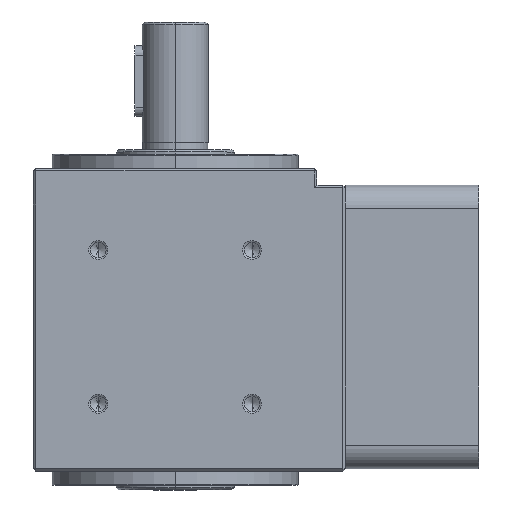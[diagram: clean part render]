
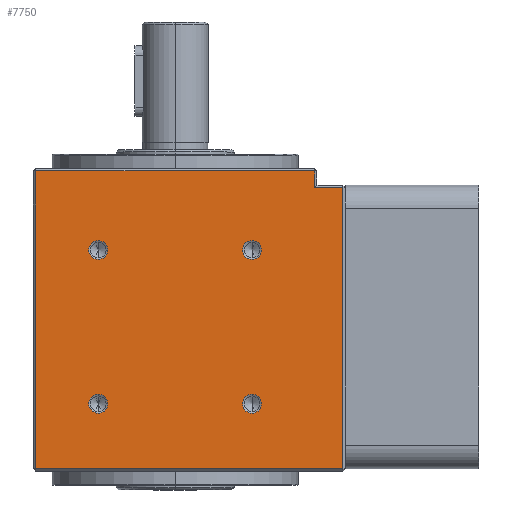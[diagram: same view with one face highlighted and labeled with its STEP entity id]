
A CAD part, left-side view. The second image highlights one B-rep face of the part: STEP entity #7750.
In plain terms, the highlighted planar face has unit normal (-1, 0, 0) as drawn and (1, 0, 0) by its records, which use the part's own axes.
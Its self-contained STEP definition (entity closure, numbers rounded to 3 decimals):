
#26 = EDGE_CURVE ( 'NONE', #30095, #21761, #1625, .T. ) ;
#136 = EDGE_CURVE ( 'NONE', #24231, #29380, #16867, .T. ) ;
#352 = DIRECTION ( 'NONE',  ( 1., 0., 0. ) ) ;
#410 = FACE_BOUND ( 'NONE', #24757, .T. ) ;
#801 = VECTOR ( 'NONE', #37540, 1000. ) ;
#933 = DIRECTION ( 'NONE',  ( 1., 0., 0. ) ) ;
#1108 = DIRECTION ( 'NONE',  ( 0., 0., -1. ) ) ;
#1289 = VERTEX_POINT ( 'NONE', #34229 ) ;
#1625 = CIRCLE ( 'NONE', #22050, 2. ) ;
#1793 = CARTESIAN_POINT ( 'NONE',  ( 30., 16.263, 54.763 ) ) ;
#1857 = ORIENTED_EDGE ( 'NONE', *, *, #33113, .T. ) ;
#1863 = DIRECTION ( 'NONE',  ( 0., 0., -1. ) ) ;
#1991 = PLANE ( 'NONE',  #5842 ) ;
#2540 = DIRECTION ( 'NONE',  ( 0., 0., 1. ) ) ;
#2823 = ORIENTED_EDGE ( 'NONE', *, *, #136, .F. ) ;
#3057 = DIRECTION ( 'NONE',  ( -1., 0., 0. ) ) ;
#3107 = CIRCLE ( 'NONE', #13278, 2. ) ;
#3129 = DIRECTION ( 'NONE',  ( 0., 0., -1. ) ) ;
#3798 = EDGE_CURVE ( 'NONE', #30996, #6735, #20510, .T. ) ;
#3925 = CARTESIAN_POINT ( 'NONE',  ( 30., -29.5, 3.5 ) ) ;
#5485 = CARTESIAN_POINT ( 'NONE',  ( 30., -35.5, 66.5 ) ) ;
#5573 = ORIENTED_EDGE ( 'NONE', *, *, #20245, .T. ) ;
#5585 = DIRECTION ( 'NONE',  ( 0., -1., 0. ) ) ;
#5842 = AXIS2_PLACEMENT_3D ( 'NONE', #24079, #3057, #5585 ) ;
#5851 = CARTESIAN_POINT ( 'NONE',  ( 30., 29.5, 66.5 ) ) ;
#6735 = VERTEX_POINT ( 'NONE', #5485 ) ;
#6973 = CARTESIAN_POINT ( 'NONE',  ( 30., -29.5, 70. ) ) ;
#7031 = DIRECTION ( 'NONE',  ( 0., 0., -1. ) ) ;
#7287 = CARTESIAN_POINT ( 'NONE',  ( 30., -35.5, 70. ) ) ;
#7750 = ADVANCED_FACE ( 'NONE', ( #15631, #410, #8972, #17986, #10864 ), #1991, .F. ) ;
#7878 = CIRCLE ( 'NONE', #15344, 2. ) ;
#8665 = ORIENTED_EDGE ( 'NONE', *, *, #3798, .T. ) ;
#8972 = FACE_BOUND ( 'NONE', #27691, .T. ) ;
#9545 = DIRECTION ( 'NONE',  ( 0., 0., -1. ) ) ;
#9762 = CIRCLE ( 'NONE', #21731, 2. ) ;
#10568 = DIRECTION ( 'NONE',  ( 0., 1., 0. ) ) ;
#10575 = EDGE_CURVE ( 'NONE', #35076, #30996, #19078, .T. ) ;
#10864 = FACE_BOUND ( 'NONE', #18682, .T. ) ;
#11908 = CARTESIAN_POINT ( 'NONE',  ( 30., -16.263, 50.763 ) ) ;
#11958 = VECTOR ( 'NONE', #2540, 1000. ) ;
#12309 = EDGE_LOOP ( 'NONE', ( #36802, #13538, #5573, #24592, #8665, #1857 ) ) ;
#12996 = EDGE_CURVE ( 'NONE', #21761, #30095, #15229, .T. ) ;
#13278 = AXIS2_PLACEMENT_3D ( 'NONE', #38325, #20067, #1863 ) ;
#13538 = ORIENTED_EDGE ( 'NONE', *, *, #24264, .T. ) ;
#13600 = EDGE_LOOP ( 'NONE', ( #20056, #32485 ) ) ;
#13748 = CARTESIAN_POINT ( 'NONE',  ( 30., -30., 7. ) ) ;
#14108 = LINE ( 'NONE', #6973, #801 ) ;
#15229 = CIRCLE ( 'NONE', #27902, 2. ) ;
#15344 = AXIS2_PLACEMENT_3D ( 'NONE', #33803, #36858, #18618 ) ;
#15373 = CARTESIAN_POINT ( 'NONE',  ( 30., 16.263, 20.237 ) ) ;
#15631 = FACE_OUTER_BOUND ( 'NONE', #12309, .T. ) ;
#15917 = CARTESIAN_POINT ( 'NONE',  ( 30., -16.263, 22.237 ) ) ;
#16266 = CARTESIAN_POINT ( 'NONE',  ( 30., -16.263, 20.237 ) ) ;
#16479 = ORIENTED_EDGE ( 'NONE', *, *, #36597, .F. ) ;
#16867 = CIRCLE ( 'NONE', #17435, 2. ) ;
#17435 = AXIS2_PLACEMENT_3D ( 'NONE', #15373, #352, #9545 ) ;
#17868 = VERTEX_POINT ( 'NONE', #31447 ) ;
#17889 = EDGE_CURVE ( 'NONE', #1289, #32005, #27922, .T. ) ;
#17898 = ORIENTED_EDGE ( 'NONE', *, *, #17889, .F. ) ;
#17986 = FACE_BOUND ( 'NONE', #13600, .T. ) ;
#18618 = DIRECTION ( 'NONE',  ( 0., 0., -1. ) ) ;
#18682 = EDGE_LOOP ( 'NONE', ( #17898, #16479 ) ) ;
#19078 = LINE ( 'NONE', #36054, #11958 ) ;
#19444 = DIRECTION ( 'NONE',  ( 1., 0., 0. ) ) ;
#19945 = CARTESIAN_POINT ( 'NONE',  ( 30., -35.5, 7. ) ) ;
#20056 = ORIENTED_EDGE ( 'NONE', *, *, #26, .F. ) ;
#20067 = DIRECTION ( 'NONE',  ( 1., 0., 0. ) ) ;
#20245 = EDGE_CURVE ( 'NONE', #26430, #35076, #32564, .T. ) ;
#20510 = LINE ( 'NONE', #39204, #22429 ) ;
#20678 = DIRECTION ( 'NONE',  ( 1., 0., 0. ) ) ;
#21016 = DIRECTION ( 'NONE',  ( 0., 0., -1. ) ) ;
#21731 = AXIS2_PLACEMENT_3D ( 'NONE', #32895, #39269, #21016 ) ;
#21761 = VERTEX_POINT ( 'NONE', #23567 ) ;
#22050 = AXIS2_PLACEMENT_3D ( 'NONE', #36520, #36397, #3129 ) ;
#22429 = VECTOR ( 'NONE', #30408, 1000. ) ;
#22788 = LINE ( 'NONE', #7287, #29952 ) ;
#23567 = CARTESIAN_POINT ( 'NONE',  ( 30., -16.263, 54.763 ) ) ;
#24079 = CARTESIAN_POINT ( 'NONE',  ( 30., -30., 70. ) ) ;
#24231 = VERTEX_POINT ( 'NONE', #34120 ) ;
#24264 = EDGE_CURVE ( 'NONE', #25529, #26430, #14108, .T. ) ;
#24371 = VERTEX_POINT ( 'NONE', #19945 ) ;
#24592 = ORIENTED_EDGE ( 'NONE', *, *, #10575, .T. ) ;
#24757 = EDGE_LOOP ( 'NONE', ( #25566, #2823 ) ) ;
#25125 = EDGE_CURVE ( 'NONE', #17868, #33457, #7878, .T. ) ;
#25529 = VERTEX_POINT ( 'NONE', #26338 ) ;
#25566 = ORIENTED_EDGE ( 'NONE', *, *, #39058, .F. ) ;
#25921 = CARTESIAN_POINT ( 'NONE',  ( 30., 29.5, 3.5 ) ) ;
#26296 = ORIENTED_EDGE ( 'NONE', *, *, #25125, .F. ) ;
#26338 = CARTESIAN_POINT ( 'NONE',  ( 30., -29.5, 7. ) ) ;
#26430 = VERTEX_POINT ( 'NONE', #3925 ) ;
#26544 = EDGE_CURVE ( 'NONE', #24371, #25529, #39266, .T. ) ;
#26989 = EDGE_CURVE ( 'NONE', #33457, #17868, #9762, .T. ) ;
#27691 = EDGE_LOOP ( 'NONE', ( #26296, #38209 ) ) ;
#27902 = AXIS2_PLACEMENT_3D ( 'NONE', #39327, #20678, #36003 ) ;
#27922 = CIRCLE ( 'NONE', #31042, 2. ) ;
#28221 = CARTESIAN_POINT ( 'NONE',  ( 30., -16.263, 20.237 ) ) ;
#29380 = VERTEX_POINT ( 'NONE', #34529 ) ;
#29952 = VECTOR ( 'NONE', #7031, 1000. ) ;
#30095 = VERTEX_POINT ( 'NONE', #11908 ) ;
#30408 = DIRECTION ( 'NONE',  ( 0., -1., 0. ) ) ;
#30996 = VERTEX_POINT ( 'NONE', #5851 ) ;
#31042 = AXIS2_PLACEMENT_3D ( 'NONE', #16266, #19444, #1108 ) ;
#31447 = CARTESIAN_POINT ( 'NONE',  ( 30., 16.263, 50.763 ) ) ;
#32005 = VERTEX_POINT ( 'NONE', #15917 ) ;
#32485 = ORIENTED_EDGE ( 'NONE', *, *, #12996, .F. ) ;
#32564 = LINE ( 'NONE', #33030, #33533 ) ;
#32895 = CARTESIAN_POINT ( 'NONE',  ( 30., 16.263, 52.763 ) ) ;
#33030 = CARTESIAN_POINT ( 'NONE',  ( 30., 30., 3.5 ) ) ;
#33113 = EDGE_CURVE ( 'NONE', #6735, #24371, #22788, .T. ) ;
#33457 = VERTEX_POINT ( 'NONE', #1793 ) ;
#33533 = VECTOR ( 'NONE', #35803, 1000. ) ;
#33552 = VECTOR ( 'NONE', #10568, 1000. ) ;
#33803 = CARTESIAN_POINT ( 'NONE',  ( 30., 16.263, 52.763 ) ) ;
#34120 = CARTESIAN_POINT ( 'NONE',  ( 30., 16.263, 22.237 ) ) ;
#34229 = CARTESIAN_POINT ( 'NONE',  ( 30., -16.263, 18.237 ) ) ;
#34529 = CARTESIAN_POINT ( 'NONE',  ( 30., 16.263, 18.237 ) ) ;
#35076 = VERTEX_POINT ( 'NONE', #25921 ) ;
#35409 = AXIS2_PLACEMENT_3D ( 'NONE', #28221, #933, #37249 ) ;
#35530 = CIRCLE ( 'NONE', #35409, 2. ) ;
#35803 = DIRECTION ( 'NONE',  ( 0., 1., 0. ) ) ;
#36003 = DIRECTION ( 'NONE',  ( 0., 0., -1. ) ) ;
#36054 = CARTESIAN_POINT ( 'NONE',  ( 30., 29.5, 70. ) ) ;
#36397 = DIRECTION ( 'NONE',  ( 1., 0., 0. ) ) ;
#36520 = CARTESIAN_POINT ( 'NONE',  ( 30., -16.263, 52.763 ) ) ;
#36597 = EDGE_CURVE ( 'NONE', #32005, #1289, #35530, .T. ) ;
#36802 = ORIENTED_EDGE ( 'NONE', *, *, #26544, .T. ) ;
#36858 = DIRECTION ( 'NONE',  ( 1., 0., 0. ) ) ;
#37249 = DIRECTION ( 'NONE',  ( 0., 0., -1. ) ) ;
#37540 = DIRECTION ( 'NONE',  ( 0., 0., -1. ) ) ;
#38209 = ORIENTED_EDGE ( 'NONE', *, *, #26989, .F. ) ;
#38325 = CARTESIAN_POINT ( 'NONE',  ( 30., 16.263, 20.237 ) ) ;
#39058 = EDGE_CURVE ( 'NONE', #29380, #24231, #3107, .T. ) ;
#39204 = CARTESIAN_POINT ( 'NONE',  ( 30., -36., 66.5 ) ) ;
#39266 = LINE ( 'NONE', #13748, #33552 ) ;
#39269 = DIRECTION ( 'NONE',  ( 1., 0., 0. ) ) ;
#39327 = CARTESIAN_POINT ( 'NONE',  ( 30., -16.263, 52.763 ) ) ;
